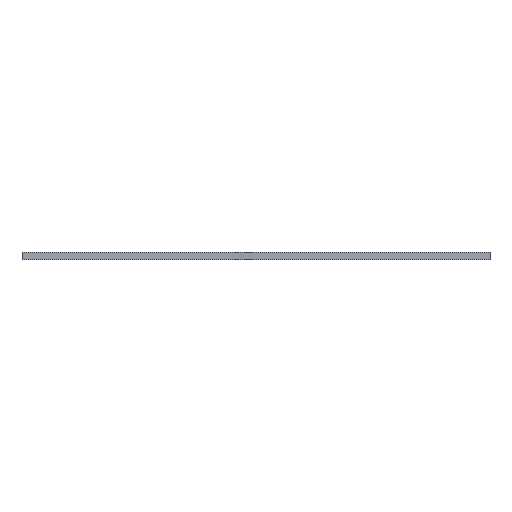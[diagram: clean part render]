
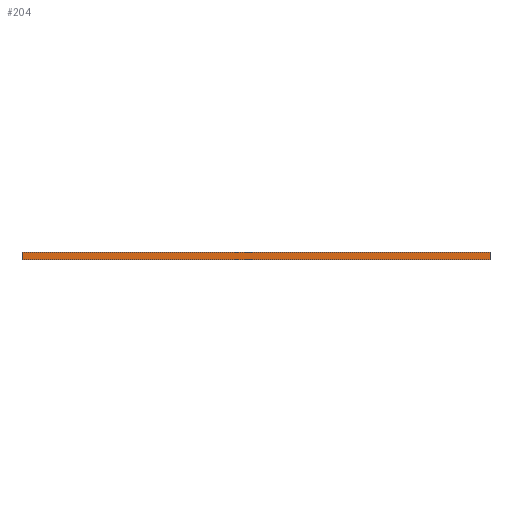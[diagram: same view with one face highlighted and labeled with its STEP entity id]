
A CAD part, top view. The second image highlights one B-rep face of the part: STEP entity #204.
In plain terms, the highlighted planar face has unit normal (0, 0, 1).
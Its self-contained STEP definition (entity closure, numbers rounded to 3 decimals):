
#15 = CARTESIAN_POINT ( 'NONE',  ( 1500., 24.8, 6.25 ) ) ;
#132 = EDGE_CURVE ( 'NONE', #458, #2612, #2761, .T. ) ;
#176 = FACE_OUTER_BOUND ( 'NONE', #2601, .T. ) ;
#204 = ADVANCED_FACE ( 'NONE', ( #176 ), #971, .T. ) ;
#222 = DIRECTION ( 'NONE',  ( 0., -1., 0. ) ) ;
#333 = ORIENTED_EDGE ( 'NONE', *, *, #3390, .T. ) ;
#393 = VECTOR ( 'NONE', #222, 1000. ) ;
#458 = VERTEX_POINT ( 'NONE', #1400 ) ;
#572 = DIRECTION ( 'NONE',  ( 0., 0., 1. ) ) ;
#783 = LINE ( 'NONE', #3465, #1574 ) ;
#863 = CARTESIAN_POINT ( 'NONE',  ( 1500., -24.8, 6.25 ) ) ;
#876 = DIRECTION ( 'NONE',  ( 1., 0., 0. ) ) ;
#971 = PLANE ( 'NONE',  #1381 ) ;
#1117 = DIRECTION ( 'NONE',  ( 1., 0., 0. ) ) ;
#1337 = ORIENTED_EDGE ( 'NONE', *, *, #3479, .F. ) ;
#1381 = AXIS2_PLACEMENT_3D ( 'NONE', #4716, #572, #2094 ) ;
#1400 = CARTESIAN_POINT ( 'NONE',  ( -1500., 24.8, 6.25 ) ) ;
#1441 = LINE ( 'NONE', #4766, #393 ) ;
#1459 = CARTESIAN_POINT ( 'NONE',  ( -1500., -24.8, 6.25 ) ) ;
#1541 = DIRECTION ( 'NONE',  ( 0., -1., 0. ) ) ;
#1574 = VECTOR ( 'NONE', #1541, 1000. ) ;
#2069 = VECTOR ( 'NONE', #1117, 1000. ) ;
#2094 = DIRECTION ( 'NONE',  ( 1., 0., 0. ) ) ;
#2114 = ORIENTED_EDGE ( 'NONE', *, *, #132, .F. ) ;
#2601 = EDGE_LOOP ( 'NONE', ( #333, #1337, #2114, #4306 ) ) ;
#2612 = VERTEX_POINT ( 'NONE', #15 ) ;
#2761 = LINE ( 'NONE', #4273, #3615 ) ;
#3390 = EDGE_CURVE ( 'NONE', #4721, #4482, #4528, .T. ) ;
#3465 = CARTESIAN_POINT ( 'NONE',  ( 1500., 24.8, 6.25 ) ) ;
#3479 = EDGE_CURVE ( 'NONE', #2612, #4482, #783, .T. ) ;
#3615 = VECTOR ( 'NONE', #876, 1000. ) ;
#4273 = CARTESIAN_POINT ( 'NONE',  ( -1500., 24.8, 6.25 ) ) ;
#4306 = ORIENTED_EDGE ( 'NONE', *, *, #4781, .T. ) ;
#4400 = CARTESIAN_POINT ( 'NONE',  ( -1500., -24.8, 6.25 ) ) ;
#4482 = VERTEX_POINT ( 'NONE', #863 ) ;
#4528 = LINE ( 'NONE', #1459, #2069 ) ;
#4716 = CARTESIAN_POINT ( 'NONE',  ( -1500., 24.8, 6.25 ) ) ;
#4721 = VERTEX_POINT ( 'NONE', #4400 ) ;
#4766 = CARTESIAN_POINT ( 'NONE',  ( -1500., 24.8, 6.25 ) ) ;
#4781 = EDGE_CURVE ( 'NONE', #458, #4721, #1441, .T. ) ;
